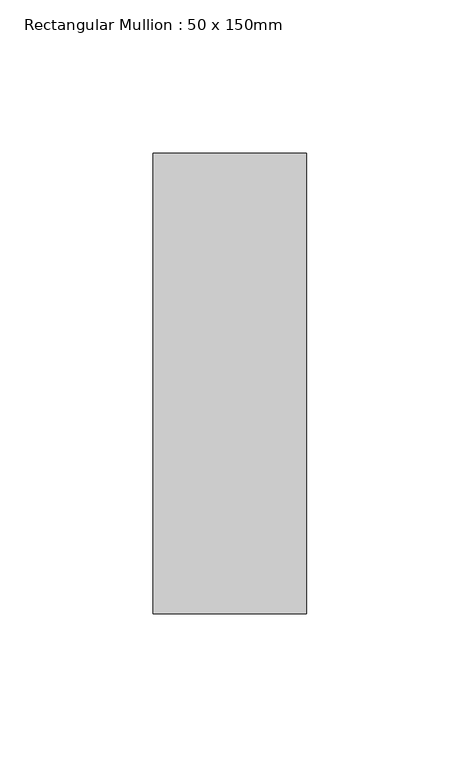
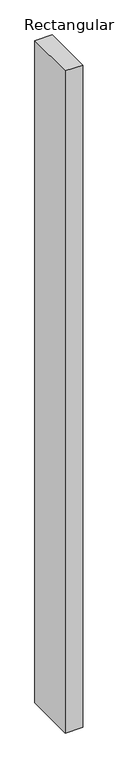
"""IFC4 building model written with IfcOpenShell, lengths in millimetres: member geometry, Rectangular Mullion : 50 x 150mm."""

from ifc_helpers import new_model, si_unit, frame, origin, place, context, project, spatial, polyline, outline, extrude, source, transform, mapped, element, save


def rectangular_mullion_50_x_150mm_fe9a9d3e(model_context):
    return source(origin(), model_context, "Body", "SweptSolid", [
        extrude(outline(polyline([(0.0, 75.0), (0.0, -75.0), (-50.0, -75.0), (-50.0, 75.0), (0.0, 75.0)])), frame((0.0, 0.0, -1997.2919866), z_axis=(0.0, 0.0, 1.0), x_axis=(1.0, 0.0, 0.0)), (0.0, 0.0, 1.0), 1997.2919866),
    ])


if __name__ == "__main__":
    model = new_model("IFC4")
    model_context = context("Model", 3, world=origin())
    ifc_project = project(units=[si_unit("LENGTHUNIT", "METRE", prefix="MILLI")], contexts=[model_context])
    site = spatial("IfcSite", under=ifc_project)
    building = spatial("IfcBuilding", under=site)
    placement = place(None, origin())
    rectangular_mullion_50_x_150mm_shape = rectangular_mullion_50_x_150mm_fe9a9d3e(model_context)
    element("IfcMember", 1, ObjectType="Rectangular Mullion : 50 x 150mm", at=placement, inside=building, context=model_context, shape_type="MappedRepresentation", body=[
        mapped(rectangular_mullion_50_x_150mm_shape, transform((0.0, 0.0, 0.0), x_axis=(1.0, 0.0, 0.0), y_axis=(0.0, 1.0, 0.0), z_axis=(0.0, 0.0, 1.0))),
    ])
    save(model, "model.ifc")
